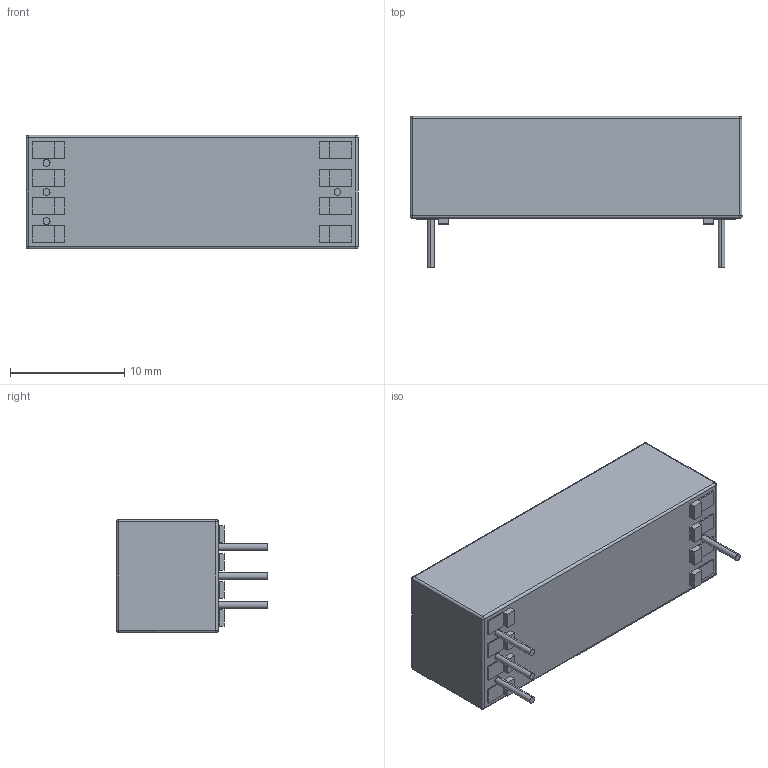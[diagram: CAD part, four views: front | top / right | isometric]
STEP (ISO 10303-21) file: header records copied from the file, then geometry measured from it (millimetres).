
FILE_DESCRIPTION (( 'STEP AP203' ), '1' );
FILE_NAME ('89-1-A.STEP', '2010-06-29T13:40:16', ( ' ' ), ( '' ), 'SwSTEP 2.0', 'SolidWorks 2009', '' );
FILE_SCHEMA (( 'CONFIG_CONTROL_DESIGN' ));
Products named in the file (1): 89-1-A
Bounding box: 29 x 13.2 x 9.9 mm (x, y, z)
Volume: 2561.8 mm3; surface area: 1303.6 mm2
Topology: 1 solids, 1 shells, 765 faces, 2014 edges, 1326 vertices
Faces by surface type: plane 485, bspline 246, cylinder 24, sphere 10
Entity records: 36335 total; most frequent: CARTESIAN_POINT 19040, ORIENTED_EDGE 4012, DIRECTION 2604, EDGE_CURVE 2006, VECTOR 1464, LINE 1464, VERTEX_POINT 1326, EDGE_LOOP 848
